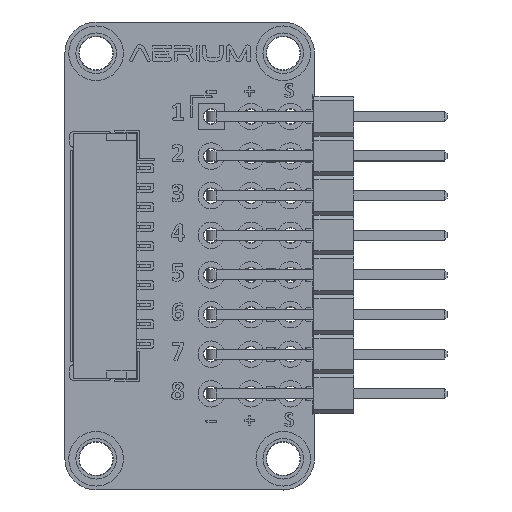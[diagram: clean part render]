
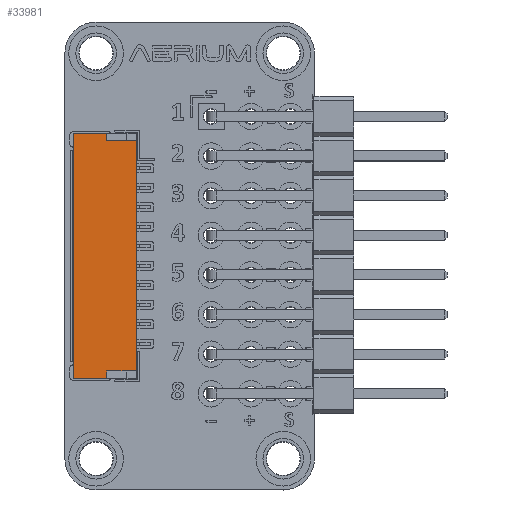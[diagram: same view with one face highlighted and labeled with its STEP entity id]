
A CAD part, top view. The second image highlights one B-rep face of the part: STEP entity #33981.
In plain terms, the highlighted planar face has unit normal (0, 0, 1).
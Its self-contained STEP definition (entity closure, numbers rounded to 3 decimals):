
#1696=FACE_OUTER_BOUND('',#3279,.T.);
#3279=EDGE_LOOP('',(#23028,#23029,#23030,#23031,#23032,#23033,#23034,#23035));
#5163=LINE('',#47230,#9504);
#5204=LINE('',#47310,#9545);
#5313=LINE('',#47530,#9654);
#5314=LINE('',#47532,#9655);
#5315=LINE('',#47533,#9656);
#5316=LINE('',#47535,#9657);
#5317=LINE('',#47537,#9658);
#5318=LINE('',#47538,#9659);
#9504=VECTOR('',#38140,1.);
#9545=VECTOR('',#38193,1.);
#9654=VECTOR('',#38304,1.);
#9655=VECTOR('',#38305,1.);
#9656=VECTOR('',#38306,1.);
#9657=VECTOR('',#38307,1.);
#9658=VECTOR('',#38308,1.);
#9659=VECTOR('',#38309,1.);
#13845=VERTEX_POINT('',#47227);
#13846=VERTEX_POINT('',#47229);
#13879=VERTEX_POINT('',#47308);
#13988=VERTEX_POINT('',#47528);
#13989=VERTEX_POINT('',#47529);
#13990=VERTEX_POINT('',#47531);
#13991=VERTEX_POINT('',#47534);
#13992=VERTEX_POINT('',#47536);
#17744=EDGE_CURVE('',#13846,#13845,#5163,.T.);
#17785=EDGE_CURVE('',#13845,#13879,#5204,.T.);
#17894=EDGE_CURVE('',#13988,#13989,#5313,.T.);
#17895=EDGE_CURVE('',#13990,#13988,#5314,.T.);
#17896=EDGE_CURVE('',#13846,#13990,#5315,.T.);
#17897=EDGE_CURVE('',#13991,#13879,#5316,.T.);
#17898=EDGE_CURVE('',#13992,#13991,#5317,.T.);
#17899=EDGE_CURVE('',#13992,#13989,#5318,.T.);
#23028=ORIENTED_EDGE('',*,*,#17894,.F.);
#23029=ORIENTED_EDGE('',*,*,#17895,.F.);
#23030=ORIENTED_EDGE('',*,*,#17896,.F.);
#23031=ORIENTED_EDGE('',*,*,#17744,.T.);
#23032=ORIENTED_EDGE('',*,*,#17785,.T.);
#23033=ORIENTED_EDGE('',*,*,#17897,.F.);
#23034=ORIENTED_EDGE('',*,*,#17898,.F.);
#23035=ORIENTED_EDGE('',*,*,#17899,.T.);
#31444=PLANE('',#35765);
#33981=ADVANCED_FACE('',(#1696),#31444,.T.);
#35765=AXIS2_PLACEMENT_3D('',#47527,#38302,#38303);
#38140=DIRECTION('',(0.,-1.,0.));
#38193=DIRECTION('',(1.,0.,0.));
#38302=DIRECTION('center_axis',(0.,0.,1.));
#38303=DIRECTION('ref_axis',(0.,-1.,0.));
#38304=DIRECTION('',(1.,0.,0.));
#38305=DIRECTION('',(0.,1.,0.));
#38306=DIRECTION('',(1.,0.,0.));
#38307=DIRECTION('',(0.,-1.,0.));
#38308=DIRECTION('',(1.,0.,0.));
#38309=DIRECTION('',(0.,1.,0.));
#47227=CARTESIAN_POINT('',(-7.875,-2.47,4.245));
#47229=CARTESIAN_POINT('',(-7.875,-0.32,4.245));
#47230=CARTESIAN_POINT('',(-7.875,1.58,4.245));
#47308=CARTESIAN_POINT('',(7.875,-2.47,4.245));
#47310=CARTESIAN_POINT('',(-7.875,-2.47,4.245));
#47527=CARTESIAN_POINT('Origin',(-7.875,1.58,4.245));
#47528=CARTESIAN_POINT('',(-7.375,1.58,4.245));
#47529=CARTESIAN_POINT('',(7.375,1.58,4.245));
#47530=CARTESIAN_POINT('',(-7.875,1.58,4.245));
#47531=CARTESIAN_POINT('',(-7.375,-0.32,4.245));
#47532=CARTESIAN_POINT('',(-7.375,-0.32,4.245));
#47533=CARTESIAN_POINT('',(-7.875,-0.32,4.245));
#47534=CARTESIAN_POINT('',(7.875,-0.32,4.245));
#47535=CARTESIAN_POINT('',(7.875,1.58,4.245));
#47536=CARTESIAN_POINT('',(7.375,-0.32,4.245));
#47537=CARTESIAN_POINT('',(7.375,-0.32,4.245));
#47538=CARTESIAN_POINT('',(7.375,-0.32,4.245));
